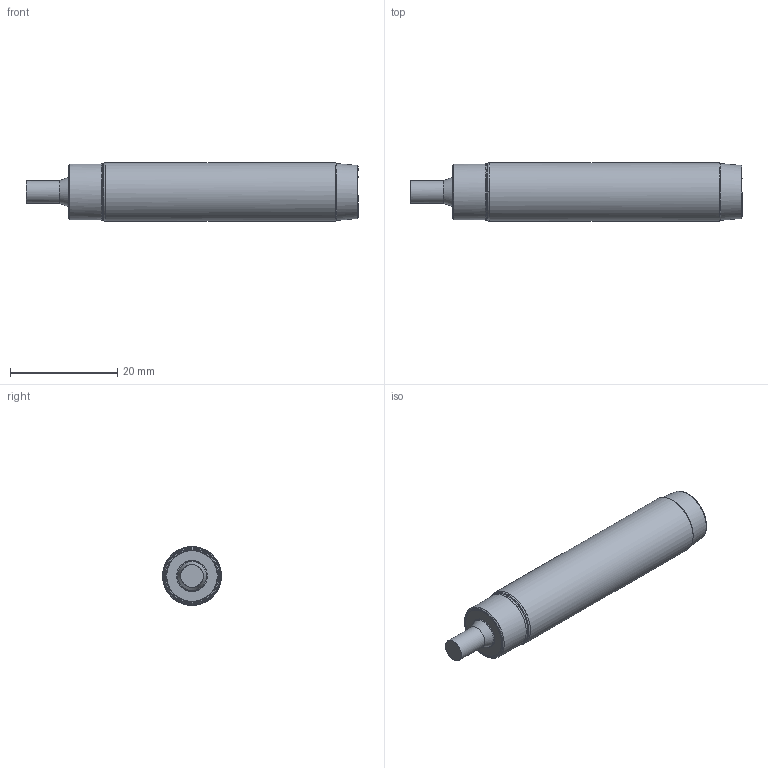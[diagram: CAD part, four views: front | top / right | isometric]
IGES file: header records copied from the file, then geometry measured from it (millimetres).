
Start section: C
Global section: file name: IFBR 11xx3T1_L-9.igs; native system:  By UGS Corp.; preprocessor: XPlus GENERIC/IGES 3.0; author: Author; organization: Title; date: 20120514.161855; units: millimetre
Bounding box: 62 x 10.99 x 11 mm (x, y, z)
Surface area: 2111.4 mm2 (no closed solid volume)
Topology: 0 solids, 0 shells, 18 faces, 102 edges, 102 vertices
Faces by surface type: bspline 18
